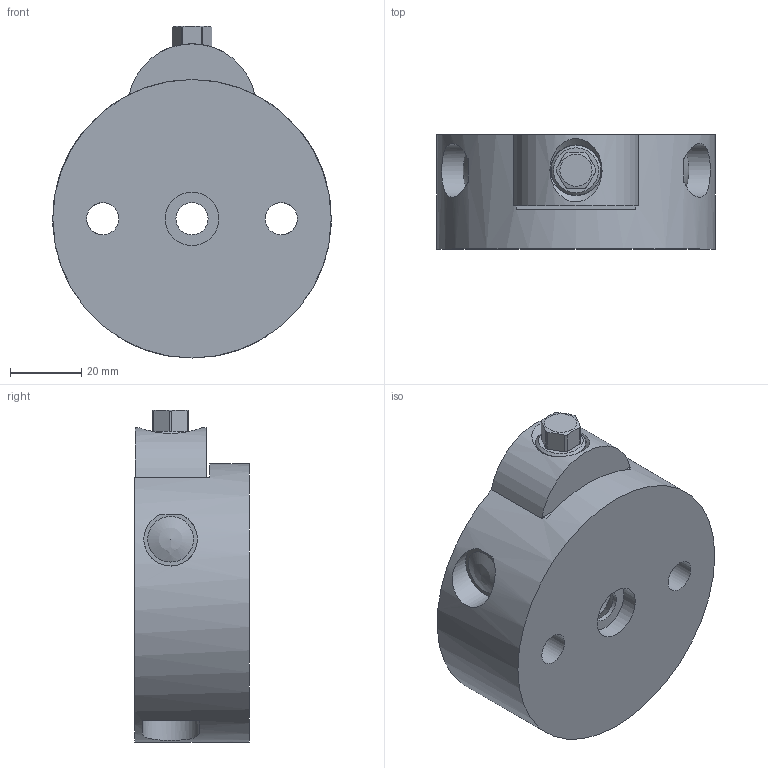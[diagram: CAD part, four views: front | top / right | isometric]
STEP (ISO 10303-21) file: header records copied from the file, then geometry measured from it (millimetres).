
FILE_DESCRIPTION( ( 'STEP AP203' ), '1' );
FILE_NAME( 'p:/temp/worker_17/temp/exporttempdir_5732_109_AaVeB/format_1/AMF559678.stp', '2020-03-20T05:46:38', ( 'License CC BY-ND 4.0' ), ( 'CADENAS' ), ' ', 'PARTsolutions', ' ' );
FILE_SCHEMA( ( 'CONFIG_CONTROL_DESIGN' ) );
Length unit declared in the file: millimetre
Products named in the file (1): _AMF559678
Bounding box: 78 x 32 x 93 mm (x, y, z)
Volume: 140690.2 mm3; surface area: 23008.9 mm2
Topology: 1 solids, 1 shells, 70 faces, 165 edges, 108 vertices
Faces by surface type: plane 34, cylinder 26, cone 8, sphere 2
Full cylindrical faces by diameter (mm): 9 x3, 12 x2, 14 x1, 14.2 x1, 15 x1, 22 x1, 70 x1, 78 x1
Entity records: 2256 total; most frequent: CARTESIAN_POINT 676, DIRECTION 332, ORIENTED_EDGE 274, AXIS2_PLACEMENT_3D 143, EDGE_CURVE 137, EDGE_LOOP 108, VERTEX_POINT 103, FACE_OUTER_BOUND 81
